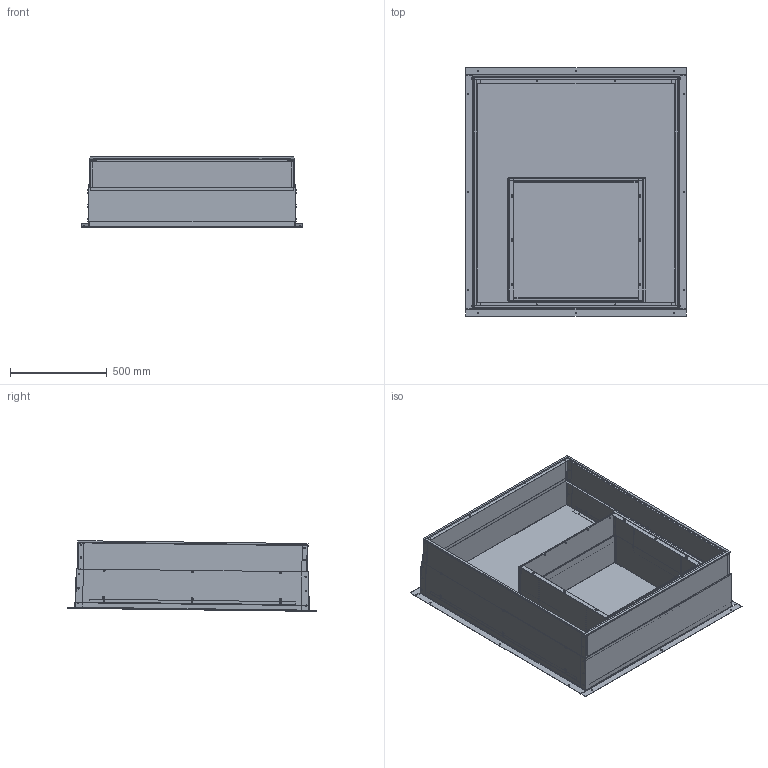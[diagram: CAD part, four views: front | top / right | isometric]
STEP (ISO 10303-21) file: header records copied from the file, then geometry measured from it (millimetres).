
FILE_DESCRIPTION (( 'STEP AP214' ), '1' );
FILE_NAME ('IWS-B WALL SLEEVE 8.0-13.5.STEP', '2016-07-14T15:53:11', ( 'BMC' ), ( 'Bard Manufacturing Co., Inc.' ), 'SwSTEP 2.0', 'SolidWorks 2016', '' );
FILE_SCHEMA (( 'AUTOMOTIVE_DESIGN' ));
Length unit declared in the file: inch
Products named in the file (19): MWS0814 unit inner; 1913-013-4600; 1913-013-4108; 1012-110; 110-192; 110-193; IWS-B WALL SLEEVE 8.0-13.5; 106-292; MWS0814 unit outer; 110-190; 104-1257; 110-191; MWS0814 fan sleeve assembly; MWS0814 fan inner; 110-196; MWS0814 fan outer; 5021-1690; 110-195; 110-194
Assembly tree (75 placements, depth 4):
  IWS-B WALL SLEEVE 8.0-13.5
    MWS0814 unit inner
      110-193  x2
      110-192  x2
      1012-110  x12
      1913-013-4108  x2
      1913-013-4600  x2
    MWS0814 fan sleeve assembly
      MWS0814 fan outer
        110-194  x2
        110-195  x2
        5021-1690
        1012-110  x12
      MWS0814 fan inner
        110-196  x2
        1012-110  x6
    MWS0814 unit outer
      110-191  x2
      1012-110  x18
      104-1257  x2
      110-190  x2
    106-292
Bounding box: 1143.35 x 1286.3 x 365.12 mm (x, y, z)
Surface area: 9550572.7 mm2 (no closed solid volume)
Topology: 0 solids, 70 shells, 1694 faces, 4102 edges, 2716 vertices
Faces by surface type: cylinder 790, plane 596, torus 192, bspline 116
Entity records: 21782 total; most frequent: CARTESIAN_POINT 6053, DIRECTION 3301, ORIENTED_EDGE 2972, EDGE_CURVE 1486, AXIS2_PLACEMENT_3D 1281, VERTEX_POINT 953, EDGE_LOOP 799, VECTOR 739
